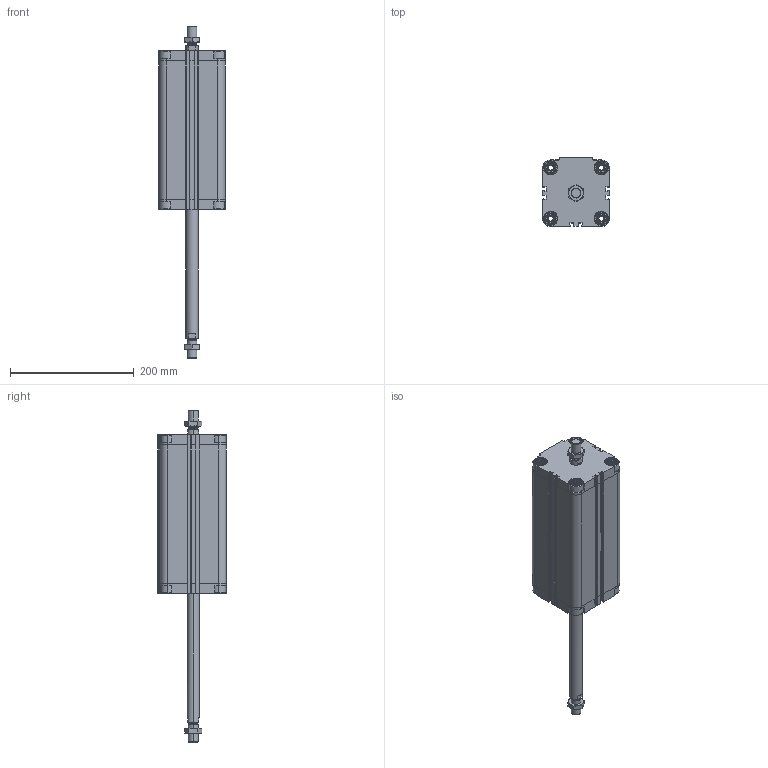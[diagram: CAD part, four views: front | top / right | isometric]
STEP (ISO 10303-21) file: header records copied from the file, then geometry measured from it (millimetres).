
FILE_DESCRIPTION (( 'STEP AP203' ), '1' );
FILE_NAME ('CDVU80-200M-P.STEP', '2020-07-21T15:27:23', ( '' ), ( '' ), 'SwSTEP 2.0', 'SolidWorks 2019', '' );
FILE_SCHEMA (( 'CONFIG_CONTROL_DESIGN' ));
Length unit declared in the file: millimetre
Products named in the file (1): CDVU80-200M-P
Bounding box: 107 x 111 x 536 mm (x, y, z)
Volume: 1860752.9 mm3; surface area: 314559.8 mm2
Topology: 4 solids, 4 shells, 706 faces, 1888 edges, 1234 vertices
Faces by surface type: plane 410, cylinder 216, cone 80
Entity records: 22967 total; most frequent: CARTESIAN_POINT 5177, ORIENTED_EDGE 3768, DIRECTION 3610, EDGE_CURVE 1884, AXIS2_PLACEMENT_3D 1235, VERTEX_POINT 1234, LINE 1140, VECTOR 1140
